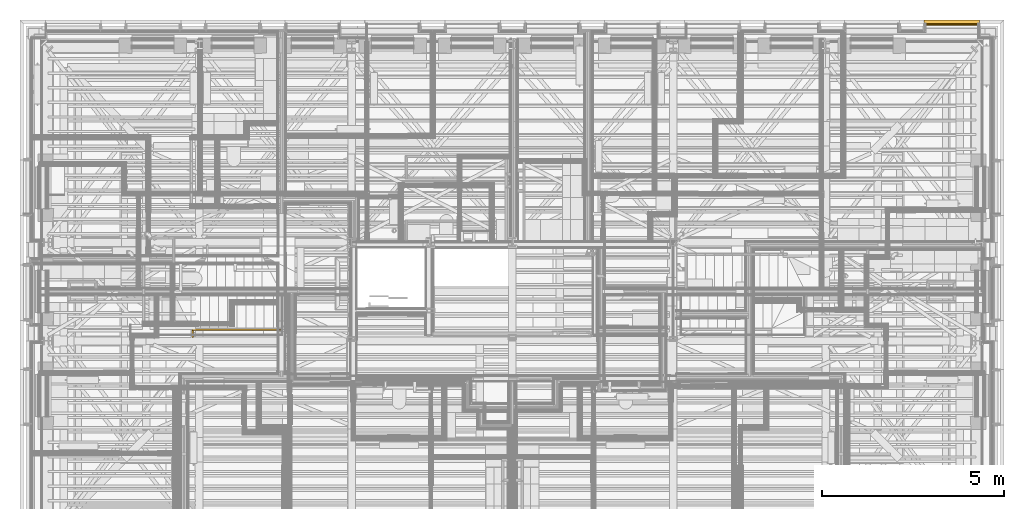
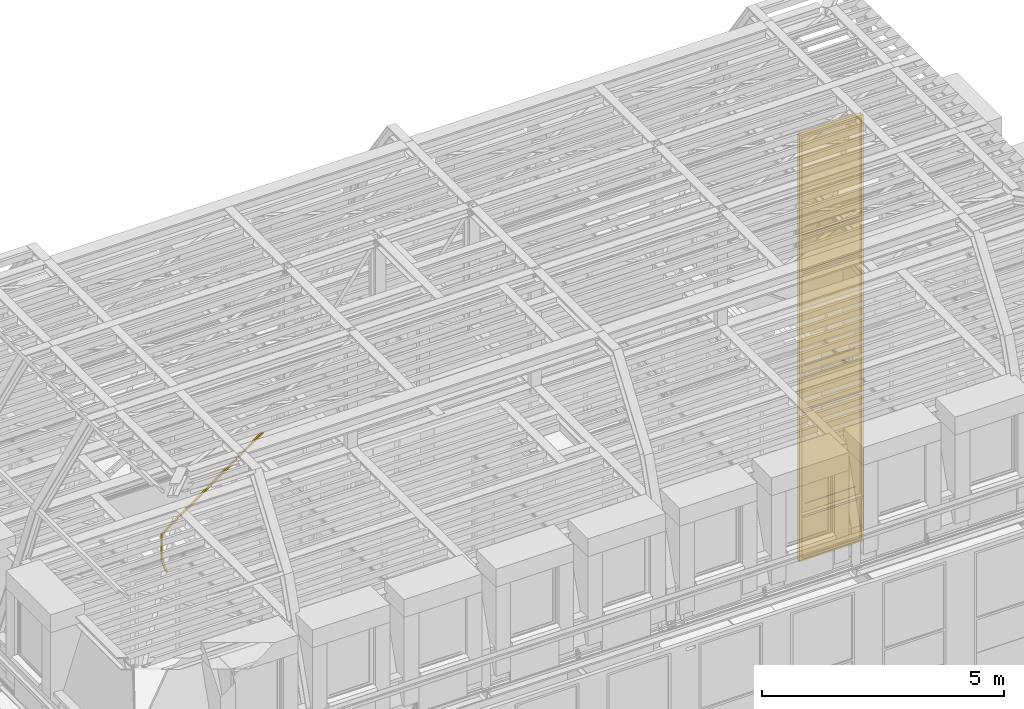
# One storey, part 156 of 183: 1 curtain wall, 1 railing.
"""IFC2X3 building model written with IfcOpenShell, lengths in metres."""

from ifc_helpers import new_model, entity, si_unit, converted_unit, derived_unit, money_unit, direction, frame, origin_with_axes, place, context, subcontext, project, spatial, faceted_brep, material, type_object, element, save


model = new_model("IFC2X3")

# Units and contexts
model_context = context("Model", 3, precision=1e-05, world=origin_with_axes(), true_north=direction((0.0, 1.0)))
body_context = subcontext(model_context, "Body", "Model", "MODEL_VIEW", scale=1.0)
ifc_project = project(units=[si_unit("LENGTHUNIT", "METRE"), si_unit("AREAUNIT", "SQUARE_METRE"), si_unit("VOLUMEUNIT", "CUBIC_METRE"), si_unit("ABSORBEDDOSEUNIT", "GRAY"), si_unit("AMOUNTOFSUBSTANCEUNIT", "MOLE"), si_unit("DOSEEQUIVALENTUNIT", "SIEVERT"), si_unit("ELECTRICCAPACITANCEUNIT", "FARAD"), si_unit("ELECTRICCHARGEUNIT", "COULOMB"), si_unit("ELECTRICCONDUCTANCEUNIT", "SIEMENS"), si_unit("ELECTRICCURRENTUNIT", "AMPERE"), si_unit("ELECTRICRESISTANCEUNIT", "OHM"), si_unit("ELECTRICVOLTAGEUNIT", "VOLT"), si_unit("ENERGYUNIT", "JOULE"), si_unit("FORCEUNIT", "NEWTON"), si_unit("FREQUENCYUNIT", "HERTZ"), si_unit("ILLUMINANCEUNIT", "LUX"), si_unit("INDUCTANCEUNIT", "HENRY"), si_unit("LUMINOUSFLUXUNIT", "LUMEN"), si_unit("LUMINOUSINTENSITYUNIT", "CANDELA"), si_unit("MAGNETICFLUXDENSITYUNIT", "TESLA"), si_unit("MAGNETICFLUXUNIT", "WEBER"), si_unit("MASSUNIT", "GRAM"), converted_unit("PLANEANGLEUNIT", "degree", entity("IfcReal", 0.0174532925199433), si_unit("PLANEANGLEUNIT", "RADIAN"), dimensions=[0, 0, 0, 0, 0, 0, 0]), si_unit("POWERUNIT", "WATT"), si_unit("PRESSUREUNIT", "PASCAL"), si_unit("RADIOACTIVITYUNIT", "BECQUEREL"), si_unit("SOLIDANGLEUNIT", "STERADIAN"), si_unit("THERMODYNAMICTEMPERATUREUNIT", "KELVIN"), si_unit("TIMEUNIT", "SECOND"), derived_unit("ACCELERATIONUNIT", [(si_unit("LENGTHUNIT", "METRE"), 1), (si_unit("TIMEUNIT", "SECOND"), -2)]), derived_unit("ANGULARVELOCITYUNIT", [(converted_unit("PLANEANGLEUNIT", "degree", entity("IfcReal", 0.0174532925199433), si_unit("PLANEANGLEUNIT", "RADIAN"), dimensions=[0, 0, 0, 0, 0, 0, 0]), 1), (si_unit("TIMEUNIT", "SECOND"), -1)]), derived_unit("CURVATUREUNIT", [(converted_unit("PLANEANGLEUNIT", "degree", entity("IfcReal", 0.0174532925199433), si_unit("PLANEANGLEUNIT", "RADIAN"), dimensions=[0, 0, 0, 0, 0, 0, 0]), 1), (si_unit("LENGTHUNIT", "METRE"), -1)]), derived_unit("DYNAMICVISCOSITYUNIT", [(si_unit("PRESSUREUNIT", "PASCAL"), 1), (si_unit("TIMEUNIT", "SECOND"), 1)]), derived_unit("HEATFLUXDENSITYUNIT", [(si_unit("POWERUNIT", "WATT"), 1), (si_unit("LENGTHUNIT", "METRE"), -2)]), derived_unit("HEATINGVALUEUNIT", [(si_unit("ENERGYUNIT", "JOULE"), 1), (si_unit("MASSUNIT", "GRAM"), -1)]), derived_unit("INTEGERCOUNTRATEUNIT", [(si_unit("TIMEUNIT", "SECOND"), -1)]), derived_unit("IONCONCENTRATIONUNIT", [(si_unit("MASSUNIT", "GRAM"), 1), (si_unit("VOLUMEUNIT", "CUBIC_METRE"), -1)]), derived_unit("ISOTHERMALMOISTURECAPACITYUNIT", [(si_unit("VOLUMEUNIT", "CUBIC_METRE"), 1), (si_unit("MASSUNIT", "GRAM"), -1)]), derived_unit("KINEMATICVISCOSITYUNIT", [(si_unit("AREAUNIT", "SQUARE_METRE"), 1), (si_unit("TIMEUNIT", "SECOND"), -1)]), derived_unit("LINEARFORCEUNIT", [(si_unit("FORCEUNIT", "NEWTON"), 1), (si_unit("LENGTHUNIT", "METRE"), -1)]), derived_unit("LINEARMOMENTUNIT", [(si_unit("FORCEUNIT", "NEWTON"), 1), (si_unit("LENGTHUNIT", "METRE"), -1)]), derived_unit("LINEARSTIFFNESSUNIT", [(si_unit("FORCEUNIT", "NEWTON"), 1), (si_unit("LENGTHUNIT", "METRE"), -1)]), derived_unit("LINEARVELOCITYUNIT", [(si_unit("LENGTHUNIT", "METRE"), 1), (si_unit("TIMEUNIT", "SECOND"), -1)]), derived_unit("LUMINOUSINTENSITYDISTRIBUTIONUNIT", [(si_unit("LUMINOUSINTENSITYUNIT", "CANDELA"), 1), (si_unit("LUMINOUSFLUXUNIT", "LUMEN"), -1)]), derived_unit("MASSDENSITYUNIT", [(si_unit("MASSUNIT", "GRAM"), 1), (si_unit("VOLUMEUNIT", "CUBIC_METRE"), -1)]), derived_unit("MASSFLOWRATEUNIT", [(si_unit("MASSUNIT", "GRAM"), 1), (si_unit("TIMEUNIT", "SECOND"), -1)]), derived_unit("MASSPERLENGTHUNIT", [(si_unit("MASSUNIT", "GRAM"), 1), (si_unit("LENGTHUNIT", "METRE"), -1)]), derived_unit("MODULUSOFELASTICITYUNIT", [(si_unit("FORCEUNIT", "NEWTON"), 1), (si_unit("AREAUNIT", "SQUARE_METRE"), -1)]), derived_unit("MODULUSOFLINEARSUBGRADEREACTIONUNIT", [(si_unit("FORCEUNIT", "NEWTON"), 1), (si_unit("LENGTHUNIT", "METRE"), -2)]), derived_unit("MODULUSOFROTATIONALSUBGRADEREACTIONUNIT", [(si_unit("FORCEUNIT", "NEWTON"), 1), (si_unit("LENGTHUNIT", "METRE"), 1)]), derived_unit("MODULUSOFSUBGRADEREACTIONUNIT", [(si_unit("FORCEUNIT", "NEWTON"), 1), (si_unit("VOLUMEUNIT", "CUBIC_METRE"), -1)]), derived_unit("MOISTUREDIFFUSIVITYUNIT", [(si_unit("VOLUMEUNIT", "CUBIC_METRE"), 1), (si_unit("TIMEUNIT", "SECOND"), -1)]), derived_unit("MOLECULARWEIGHTUNIT", [(si_unit("MASSUNIT", "GRAM"), 1), (si_unit("AMOUNTOFSUBSTANCEUNIT", "MOLE"), -1)]), derived_unit("PLANARFORCEUNIT", [(si_unit("FORCEUNIT", "NEWTON"), 1), (si_unit("LENGTHUNIT", "METRE"), -2)]), derived_unit("ROTATIONALFREQUENCYUNIT", [(si_unit("TIMEUNIT", "SECOND"), -1)]), derived_unit("ROTATIONALMASSUNIT", [(si_unit("MASSUNIT", "GRAM"), 1), (si_unit("LENGTHUNIT", "METRE"), 2)]), derived_unit("ROTATIONALSTIFFNESSUNIT", [(si_unit("FORCEUNIT", "NEWTON"), 1), (si_unit("LENGTHUNIT", "METRE"), 1), (converted_unit("PLANEANGLEUNIT", "degree", entity("IfcReal", 0.0174532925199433), si_unit("PLANEANGLEUNIT", "RADIAN"), dimensions=[0, 0, 0, 0, 0, 0, 0]), -1)]), derived_unit("SECTIONAREAINTEGRALUNIT", [(si_unit("LENGTHUNIT", "METRE"), 5)]), derived_unit("SECTIONMODULUSUNIT", [(si_unit("LENGTHUNIT", "METRE"), 3)]), derived_unit("SHEARMODULUSUNIT", [(si_unit("FORCEUNIT", "NEWTON"), 1), (si_unit("AREAUNIT", "SQUARE_METRE"), -1)]), derived_unit("SOUNDPOWERUNIT", [(si_unit("ENERGYUNIT", "JOULE"), 1), (si_unit("TIMEUNIT", "SECOND"), -1)]), derived_unit("SPECIFICHEATCAPACITYUNIT", [(si_unit("FORCEUNIT", "NEWTON"), 1), (si_unit("MASSUNIT", "GRAM"), -1), (si_unit("THERMODYNAMICTEMPERATUREUNIT", "KELVIN"), -1)]), derived_unit("TEMPERATUREGRADIENTUNIT", [(si_unit("THERMODYNAMICTEMPERATUREUNIT", "KELVIN"), 1), (si_unit("LENGTHUNIT", "METRE"), -1)]), derived_unit("THERMALADMITTANCEUNIT", [(si_unit("POWERUNIT", "WATT"), 1), (si_unit("AREAUNIT", "SQUARE_METRE"), -1), (si_unit("THERMODYNAMICTEMPERATUREUNIT", "KELVIN"), -1)]), derived_unit("THERMALCONDUCTANCEUNIT", [(si_unit("POWERUNIT", "WATT"), 1), (si_unit("LENGTHUNIT", "METRE"), -1), (si_unit("THERMODYNAMICTEMPERATUREUNIT", "KELVIN"), -1)]), derived_unit("THERMALEXPANSIONCOEFFICIENTUNIT", [(si_unit("THERMODYNAMICTEMPERATUREUNIT", "KELVIN"), -1)]), derived_unit("THERMALRESISTANCEUNIT", [(si_unit("AREAUNIT", "SQUARE_METRE"), 1), (si_unit("POWERUNIT", "WATT"), -1)]), derived_unit("THERMALTRANSMITTANCEUNIT", [(si_unit("POWERUNIT", "WATT"), 1), (si_unit("AREAUNIT", "SQUARE_METRE"), -1), (si_unit("THERMODYNAMICTEMPERATUREUNIT", "KELVIN"), -1)]), derived_unit("TORQUEUNIT", [(si_unit("FORCEUNIT", "NEWTON"), 1), (si_unit("LENGTHUNIT", "METRE"), 1)]), derived_unit("VAPORPERMEABILITYUNIT", [(si_unit("MASSUNIT", "GRAM"), 1), (si_unit("TIMEUNIT", "SECOND"), -1)]), derived_unit("VOLUMETRICFLOWRATEUNIT", [(si_unit("VOLUMEUNIT", "CUBIC_METRE"), 1), (si_unit("TIMEUNIT", "SECOND"), -1)]), derived_unit("WARPINGCONSTANTUNIT", [(si_unit("LENGTHUNIT", "METRE"), 6)]), derived_unit("WARPINGMOMENTUNIT", [(si_unit("FORCEUNIT", "NEWTON"), 1), (si_unit("LENGTHUNIT", "METRE"), 2)]), money_unit("GBP")], contexts=[model_context])

# Site, building, storey
site_placement = place(None, origin_with_axes())
site = spatial("IfcSite", under=ifc_project, at=site_placement, Name="Site", CompositionType="ELEMENT")
building_placement = place(site_placement, origin_with_axes())
building = spatial("IfcBuilding", under=site, at=building_placement, Name="Building01", CompositionType="ELEMENT")
storey_placement = place(building_placement, frame((0.0, 0.0, 5.15), z_axis=(0.0, 0.0, 1.0), x_axis=(1.0, 0.0, 0.0)))
storey = spatial("IfcBuildingStorey", under=building, at=storey_placement, Name="1F", CompositionType="ELEMENT", Elevation=5.15)

# Curtain wall
ifc_material_1 = material(Name="A-CurtainWall_Frame")
curtain_wall_type = type_object("IfcCurtainWallType", Name="Pattern - Maximum Spacing", PredefinedType="NOTDEFINED")
curtain_wall_placement = place(storey_placement, frame((0.0, 0.0, -5.15), z_axis=(0.0, 0.0, 1.0), x_axis=(1.0, 0.0, 0.0)))
element("IfcCurtainWall", 1, at=curtain_wall_placement, inside=storey, type_object=curtain_wall_type, material=ifc_material_1, Name="01", ObjectType="Pattern - Maximum Spacing", context=body_context, shape_type="Brep", body=[
    faceted_brep([(26.28, 14.85, 5.118945), (26.28, 14.87, 5.118945), (24.82, 14.87, 5.118945), (24.82, 14.85, 5.118945), (26.28, 14.85, 4.0), (26.28, 14.87, 4.0), (24.82, 14.85, 4.0), (24.82, 14.87, 4.0)], [[[0, 1, 2, 3]], [[4, 5, 1, 0]], [[6, 7, 5, 4]], [[3, 2, 7, 6]], [[1, 5, 7, 2]], [[3, 6, 4, 0]]]),
    faceted_brep([(24.79, 14.9, 3.97), (24.84, 14.9, 3.97), (24.84, 14.865, 3.97), (24.82, 14.865, 3.97), (24.82, 14.855, 3.97), (24.84, 14.855, 3.97), (24.84, 14.8, 3.97), (24.79, 14.8, 3.97), (24.79, 14.8, 5.123945), (24.79, 14.9, 5.123945), (24.84, 14.9, 5.123945), (24.84, 14.865, 5.123945), (24.82, 14.865, 5.123945), (24.82, 14.855, 5.123945), (24.84, 14.855, 5.123945), (24.84, 14.8, 5.123945)], [[[0, 1, 2, 3, 4, 5, 6, 7]], [[7, 8, 9, 0]], [[0, 9, 10, 1]], [[1, 10, 11, 2]], [[2, 11, 12, 3]], [[3, 12, 13, 4]], [[4, 13, 14, 5]], [[5, 14, 15, 6]], [[6, 15, 8, 7]]]),
    faceted_brep([(26.26, 14.9, 4.02), (26.26, 14.865, 4.02), (26.26, 14.865, 4.0), (26.26, 14.855, 4.0), (26.26, 14.855, 4.02), (26.26, 14.8, 4.02), (26.26, 14.8, 3.97), (26.26, 14.9, 3.97), (24.84, 14.9, 3.97), (24.84, 14.9, 4.02), (24.84, 14.865, 4.02), (24.84, 14.865, 4.0), (24.84, 14.855, 4.0), (24.84, 14.855, 4.02), (24.84, 14.8, 4.02), (24.84, 14.8, 3.97)], [[[0, 1, 2, 3, 4, 5, 6, 7]], [[7, 8, 9, 0]], [[0, 9, 10, 1]], [[1, 10, 11, 2]], [[2, 11, 12, 3]], [[3, 12, 13, 4]], [[4, 13, 14, 5]], [[5, 14, 15, 6]], [[6, 15, 8, 7]], [[8, 15, 14, 13, 12, 11, 10, 9]]]),
    faceted_brep([(26.31, 14.9, 3.97), (26.31, 14.9, 5.123945), (26.31, 14.8, 5.123945), (26.31, 14.8, 3.97), (26.26, 14.9, 3.97), (26.26, 14.9, 5.123945), (26.26, 14.865, 3.97), (26.26, 14.865, 5.123945), (26.28, 14.865, 3.97), (26.28, 14.865, 5.123945), (26.28, 14.855, 3.97), (26.28, 14.855, 5.123945), (26.26, 14.855, 3.97), (26.26, 14.855, 5.123945), (26.26, 14.8, 3.97), (26.26, 14.8, 5.123945)], [[[0, 1, 2, 3]], [[4, 5, 1, 0]], [[6, 7, 5, 4]], [[8, 9, 7, 6]], [[10, 11, 9, 8]], [[12, 13, 11, 10]], [[14, 15, 13, 12]], [[3, 2, 15, 14]], [[14, 12, 10, 8, 6, 4, 0, 3]]]),
    faceted_brep([(24.84, 14.85, 5.128945), (24.84, 14.87, 5.128945), (24.84, 14.87, 5.148945), (24.84, 14.9, 5.148945), (24.84, 14.9, 5.098945), (24.84, 14.87, 5.098945), (24.84, 14.87, 5.118945), (24.84, 14.85, 5.118945), (24.84, 14.85, 5.098945), (24.84, 14.75, 5.098945), (24.84, 14.75, 5.148945), (24.84, 14.85, 5.148945), (26.26, 14.85, 5.148945), (26.26, 14.85, 5.128945), (26.26, 14.87, 5.128945), (26.26, 14.87, 5.148945), (26.26, 14.9, 5.148945), (26.26, 14.9, 5.098945), (26.26, 14.87, 5.098945), (26.26, 14.85, 5.118945), (26.26, 14.85, 5.098945), (26.26, 14.87, 5.118945), (26.26, 14.75, 5.148945), (26.26, 14.75, 5.098945)], [[[0, 1, 2, 3, 4, 5, 6, 7, 8, 9, 10, 11]], [[11, 12, 13, 0]], [[0, 13, 14, 1]], [[1, 14, 15, 2]], [[2, 15, 16, 3]], [[3, 16, 17, 4]], [[4, 17, 18, 5]], [[7, 19, 20, 8]], [[6, 21, 19, 7]], [[5, 18, 21, 6]], [[10, 22, 12, 11]], [[9, 23, 22, 10]], [[8, 20, 23, 9]], [[20, 19, 21, 18, 17, 16, 15, 14, 13, 12, 22, 23]]]),
    faceted_brep([(26.28, 14.85, 8.615677), (26.28, 14.87, 8.615677), (24.82, 14.87, 8.615677), (24.82, 14.85, 8.615677), (26.28, 14.85, 7.726517), (26.28, 14.87, 7.726517), (24.82, 14.85, 7.726517), (24.82, 14.87, 7.726517)], [[[0, 1, 2, 3]], [[4, 5, 1, 0]], [[6, 7, 5, 4]], [[3, 2, 7, 6]], [[1, 5, 7, 2]], [[3, 6, 4, 0]]]),
    faceted_brep([(24.84, 14.8, 8.620677), (24.84, 14.8, 7.721517), (24.84, 14.855, 7.721517), (24.84, 14.855, 8.620677), (24.79, 14.8, 8.620677), (24.79, 14.8, 7.721517), (24.79, 14.9, 8.620677), (24.79, 14.9, 7.721517), (24.84, 14.9, 8.620677), (24.84, 14.9, 7.721517), (24.84, 14.865, 8.620677), (24.84, 14.865, 7.721517), (24.82, 14.865, 8.620677), (24.82, 14.865, 7.721517), (24.82, 14.855, 8.620677), (24.82, 14.855, 7.721517)], [[[0, 1, 2, 3]], [[4, 5, 1, 0]], [[6, 7, 5, 4]], [[8, 9, 7, 6]], [[10, 11, 9, 8]], [[12, 13, 11, 10]], [[14, 15, 13, 12]], [[3, 2, 15, 14]]]),
    faceted_brep([(26.26, 14.865, 7.726517), (26.26, 14.855, 7.726517), (26.26, 14.855, 7.746517), (26.26, 14.8, 7.746517), (26.26, 14.8, 7.696517), (26.26, 14.855, 7.696517), (26.26, 14.855, 7.716517), (26.26, 14.865, 7.716517), (26.26, 14.865, 7.696517), (26.26, 14.9, 7.696517), (26.26, 14.9, 7.746517), (26.26, 14.865, 7.746517), (24.84, 14.865, 7.746517), (24.84, 14.865, 7.726517), (24.84, 14.855, 7.726517), (24.84, 14.855, 7.746517), (24.84, 14.8, 7.746517), (24.84, 14.8, 7.696517), (24.84, 14.855, 7.696517), (24.84, 14.865, 7.716517), (24.84, 14.865, 7.696517), (24.84, 14.855, 7.716517), (24.84, 14.9, 7.746517), (24.84, 14.9, 7.696517)], [[[0, 1, 2, 3, 4, 5, 6, 7, 8, 9, 10, 11]], [[11, 12, 13, 0]], [[0, 13, 14, 1]], [[1, 14, 15, 2]], [[2, 15, 16, 3]], [[3, 16, 17, 4]], [[4, 17, 18, 5]], [[7, 19, 20, 8]], [[6, 21, 19, 7]], [[5, 18, 21, 6]], [[10, 22, 12, 11]], [[9, 23, 22, 10]], [[8, 20, 23, 9]], [[20, 19, 21, 18, 17, 16, 15, 14, 13, 12, 22, 23]]]),
    faceted_brep([(26.31, 14.9, 7.721517), (26.31, 14.9, 8.620677), (26.31, 14.8, 8.620677), (26.31, 14.8, 7.721517), (26.26, 14.9, 7.721517), (26.26, 14.9, 8.620677), (26.26, 14.865, 7.721517), (26.26, 14.865, 8.620677), (26.28, 14.865, 7.721517), (26.28, 14.865, 8.620677), (26.28, 14.855, 7.721517), (26.28, 14.855, 8.620677), (26.26, 14.855, 7.721517), (26.26, 14.855, 8.620677), (26.26, 14.8, 7.721517), (26.26, 14.8, 8.620677)], [[[0, 1, 2, 3]], [[4, 5, 1, 0]], [[6, 7, 5, 4]], [[8, 9, 7, 6]], [[10, 11, 9, 8]], [[12, 13, 11, 10]], [[14, 15, 13, 12]], [[3, 2, 15, 14]]]),
    faceted_brep([(24.84, 14.8375, 8.625677), (24.84, 14.8475, 8.625677), (24.84, 14.8475, 8.645677), (24.84, 14.8825, 8.645677), (24.84, 14.8825, 8.595677), (24.84, 14.8475, 8.595677), (24.84, 14.8475, 8.615677), (24.84, 14.8375, 8.615677), (24.84, 14.8375, 8.595677), (24.84, 14.7825, 8.595677), (24.84, 14.7825, 8.645677), (24.84, 14.8375, 8.645677), (26.26, 14.8375, 8.645677), (26.26, 14.8375, 8.625677), (26.26, 14.8475, 8.625677), (26.26, 14.8475, 8.645677), (26.26, 14.8825, 8.645677), (26.26, 14.8825, 8.595677), (26.26, 14.8475, 8.595677), (26.26, 14.8375, 8.615677), (26.26, 14.8375, 8.595677), (26.26, 14.8475, 8.615677), (26.26, 14.7825, 8.645677), (26.26, 14.7825, 8.595677)], [[[0, 1, 2, 3, 4, 5, 6, 7, 8, 9, 10, 11]], [[11, 12, 13, 0]], [[0, 13, 14, 1]], [[1, 14, 15, 2]], [[2, 15, 16, 3]], [[3, 16, 17, 4]], [[4, 17, 18, 5]], [[7, 19, 20, 8]], [[6, 21, 19, 7]], [[5, 18, 21, 6]], [[10, 22, 12, 11]], [[9, 23, 22, 10]], [[8, 20, 23, 9]], [[20, 19, 21, 18, 17, 16, 15, 14, 13, 12, 22, 23]]]),
    faceted_brep([(26.28, 14.85, 12.112409), (26.28, 14.87, 12.112409), (24.82, 14.87, 12.112409), (24.82, 14.85, 12.112409), (26.28, 14.85, 11.223249), (26.28, 14.87, 11.223249), (24.82, 14.85, 11.223249), (24.82, 14.87, 11.223249)], [[[0, 1, 2, 3]], [[4, 5, 1, 0]], [[6, 7, 5, 4]], [[3, 2, 7, 6]], [[1, 5, 7, 2]], [[3, 6, 4, 0]]]),
    faceted_brep([(24.84, 14.8, 12.117409), (24.84, 14.8, 11.218249), (24.84, 14.855, 11.218249), (24.84, 14.855, 12.117409), (24.79, 14.8, 12.117409), (24.79, 14.8, 11.218249), (24.79, 14.9, 12.117409), (24.79, 14.9, 11.218249), (24.84, 14.9, 12.117409), (24.84, 14.9, 11.218249), (24.84, 14.865, 12.117409), (24.84, 14.865, 11.218249), (24.82, 14.865, 12.117409), (24.82, 14.865, 11.218249), (24.82, 14.855, 12.117409), (24.82, 14.855, 11.218249)], [[[0, 1, 2, 3]], [[4, 5, 1, 0]], [[6, 7, 5, 4]], [[8, 9, 7, 6]], [[10, 11, 9, 8]], [[12, 13, 11, 10]], [[14, 15, 13, 12]], [[3, 2, 15, 14]]]),
    faceted_brep([(26.26, 14.865, 11.223249), (26.26, 14.855, 11.223249), (26.26, 14.855, 11.243249), (26.26, 14.8, 11.243249), (26.26, 14.8, 11.193249), (26.26, 14.855, 11.193249), (26.26, 14.855, 11.213249), (26.26, 14.865, 11.213249), (26.26, 14.865, 11.193249), (26.26, 14.9, 11.193249), (26.26, 14.9, 11.243249), (26.26, 14.865, 11.243249), (24.84, 14.865, 11.243249), (24.84, 14.865, 11.223249), (24.84, 14.855, 11.223249), (24.84, 14.855, 11.243249), (24.84, 14.8, 11.243249), (24.84, 14.8, 11.193249), (24.84, 14.855, 11.193249), (24.84, 14.865, 11.213249), (24.84, 14.865, 11.193249), (24.84, 14.855, 11.213249), (24.84, 14.9, 11.243249), (24.84, 14.9, 11.193249)], [[[0, 1, 2, 3, 4, 5, 6, 7, 8, 9, 10, 11]], [[11, 12, 13, 0]], [[0, 13, 14, 1]], [[1, 14, 15, 2]], [[2, 15, 16, 3]], [[3, 16, 17, 4]], [[4, 17, 18, 5]], [[7, 19, 20, 8]], [[6, 21, 19, 7]], [[5, 18, 21, 6]], [[10, 22, 12, 11]], [[9, 23, 22, 10]], [[8, 20, 23, 9]], [[20, 19, 21, 18, 17, 16, 15, 14, 13, 12, 22, 23]]]),
    faceted_brep([(26.31, 14.9, 11.218249), (26.31, 14.9, 12.117409), (26.31, 14.8, 12.117409), (26.31, 14.8, 11.218249), (26.26, 14.9, 11.218249), (26.26, 14.9, 12.117409), (26.26, 14.865, 11.218249), (26.26, 14.865, 12.117409), (26.28, 14.865, 11.218249), (26.28, 14.865, 12.117409), (26.28, 14.855, 11.218249), (26.28, 14.855, 12.117409), (26.26, 14.855, 11.218249), (26.26, 14.855, 12.117409), (26.26, 14.8, 11.218249), (26.26, 14.8, 12.117409)], [[[0, 1, 2, 3]], [[4, 5, 1, 0]], [[6, 7, 5, 4]], [[8, 9, 7, 6]], [[10, 11, 9, 8]], [[12, 13, 11, 10]], [[14, 15, 13, 12]], [[3, 2, 15, 14]]]),
    faceted_brep([(24.84, 14.8375, 12.122409), (24.84, 14.8475, 12.122409), (24.84, 14.8475, 12.142409), (24.84, 14.8825, 12.142409), (24.84, 14.8825, 12.092409), (24.84, 14.8475, 12.092409), (24.84, 14.8475, 12.112409), (24.84, 14.8375, 12.112409), (24.84, 14.8375, 12.092409), (24.84, 14.7825, 12.092409), (24.84, 14.7825, 12.142409), (24.84, 14.8375, 12.142409), (26.26, 14.8375, 12.142409), (26.26, 14.8375, 12.122409), (26.26, 14.8475, 12.122409), (26.26, 14.8475, 12.142409), (26.26, 14.8825, 12.142409), (26.26, 14.8825, 12.092409), (26.26, 14.8475, 12.092409), (26.26, 14.8375, 12.112409), (26.26, 14.8375, 12.092409), (26.26, 14.8475, 12.112409), (26.26, 14.7825, 12.142409), (26.26, 14.7825, 12.092409)], [[[0, 1, 2, 3, 4, 5, 6, 7, 8, 9, 10, 11]], [[11, 12, 13, 0]], [[0, 13, 14, 1]], [[1, 14, 15, 2]], [[2, 15, 16, 3]], [[3, 16, 17, 4]], [[4, 17, 18, 5]], [[7, 19, 20, 8]], [[6, 21, 19, 7]], [[5, 18, 21, 6]], [[10, 22, 12, 11]], [[9, 23, 22, 10]], [[8, 20, 23, 9]], [[20, 19, 21, 18, 17, 16, 15, 14, 13, 12, 22, 23]]]),
    faceted_brep([(24.94, 14.89, 7.596517), (24.94, 14.87, 7.596517), (26.16, 14.87, 7.596517), (26.16, 14.89, 7.596517), (26.16, 14.87, 5.348945), (26.16, 14.89, 5.348945), (24.94, 14.87, 5.348945), (24.94, 14.89, 5.348945)], [[[0, 1, 2, 3]], [[3, 2, 4, 5]], [[5, 4, 6, 7]], [[7, 6, 1, 0]], [[1, 6, 4, 2]], [[3, 5, 7, 0]]]),
    faceted_brep([(24.84, 14.86, 7.696517), (24.84, 14.86, 5.148945), (26.26, 14.86, 5.148945), (26.26, 14.86, 7.696517), (26.16, 14.86, 5.348945), (24.94, 14.86, 5.348945), (24.94, 14.86, 7.596517), (26.16, 14.86, 7.596517), (26.26, 14.9, 7.696517), (26.26, 14.9, 5.148945), (24.84, 14.9, 5.148945), (24.84, 14.9, 7.696517), (24.94, 14.9, 7.596517), (24.94, 14.9, 5.348945), (26.16, 14.9, 5.348945), (26.16, 14.9, 7.596517)], [[[0, 1, 2, 3], [4, 5, 6, 7]], [[8, 9, 10, 11], [12, 13, 14, 15]], [[11, 0, 3, 8]], [[8, 3, 2, 9]], [[9, 2, 1, 10]], [[10, 1, 0, 11]], [[7, 6, 12, 15]], [[4, 7, 15, 14]], [[5, 4, 14, 13]], [[6, 5, 13, 12]]]),
    faceted_brep([(26.31, 14.9, 5.123945), (26.31, 14.9, 7.721517), (26.31, 14.8, 7.721517), (26.31, 14.8, 5.123945), (26.26, 14.9, 5.123945), (26.26, 14.9, 7.721517), (26.26, 14.865, 5.123945), (26.26, 14.865, 7.721517), (26.28, 14.865, 5.123945), (26.28, 14.865, 7.721517), (26.28, 14.855, 5.123945), (26.28, 14.855, 7.721517), (26.26, 14.855, 5.123945), (26.26, 14.855, 7.721517), (26.26, 14.8, 5.123945), (26.26, 14.8, 7.721517)], [[[0, 1, 2, 3]], [[4, 5, 1, 0]], [[6, 7, 5, 4]], [[8, 9, 7, 6]], [[10, 11, 9, 8]], [[12, 13, 11, 10]], [[14, 15, 13, 12]], [[3, 2, 15, 14]]]),
    faceted_brep([(24.84, 14.8, 7.721517), (24.84, 14.8, 5.123945), (24.84, 14.855, 5.123945), (24.84, 14.855, 7.721517), (24.79, 14.8, 7.721517), (24.79, 14.8, 5.123945), (24.79, 14.9, 7.721517), (24.79, 14.9, 5.123945), (24.84, 14.9, 7.721517), (24.84, 14.9, 5.123945), (24.84, 14.865, 7.721517), (24.84, 14.865, 5.123945), (24.82, 14.865, 7.721517), (24.82, 14.865, 5.123945), (24.82, 14.855, 7.721517), (24.82, 14.855, 5.123945)], [[[0, 1, 2, 3]], [[4, 5, 1, 0]], [[6, 7, 5, 4]], [[8, 9, 7, 6]], [[10, 11, 9, 8]], [[12, 13, 11, 10]], [[14, 15, 13, 12]], [[3, 2, 15, 14]]]),
    faceted_brep([(24.94, 14.89, 11.093249), (24.94, 14.87, 11.093249), (26.16, 14.87, 11.093249), (26.16, 14.89, 11.093249), (26.16, 14.87, 8.845677), (26.16, 14.89, 8.845677), (24.94, 14.87, 8.845677), (24.94, 14.89, 8.845677)], [[[0, 1, 2, 3]], [[3, 2, 4, 5]], [[5, 4, 6, 7]], [[7, 6, 1, 0]], [[1, 6, 4, 2]], [[3, 5, 7, 0]]]),
    faceted_brep([(24.84, 14.86, 11.193249), (24.84, 14.86, 8.645677), (26.26, 14.86, 8.645677), (26.26, 14.86, 11.193249), (26.16, 14.86, 8.845677), (24.94, 14.86, 8.845677), (24.94, 14.86, 11.093249), (26.16, 14.86, 11.093249), (26.26, 14.9, 11.193249), (26.26, 14.9, 8.645677), (24.84, 14.9, 8.645677), (24.84, 14.9, 11.193249), (24.94, 14.9, 11.093249), (24.94, 14.9, 8.845677), (26.16, 14.9, 8.845677), (26.16, 14.9, 11.093249)], [[[0, 1, 2, 3], [4, 5, 6, 7]], [[8, 9, 10, 11], [12, 13, 14, 15]], [[11, 0, 3, 8]], [[8, 3, 2, 9]], [[9, 2, 1, 10]], [[10, 1, 0, 11]], [[7, 6, 12, 15]], [[4, 7, 15, 14]], [[5, 4, 14, 13]], [[6, 5, 13, 12]]]),
    faceted_brep([(26.31, 14.9, 8.620677), (26.31, 14.9, 11.218249), (26.31, 14.8, 11.218249), (26.31, 14.8, 8.620677), (26.26, 14.9, 8.620677), (26.26, 14.9, 11.218249), (26.26, 14.865, 8.620677), (26.26, 14.865, 11.218249), (26.28, 14.865, 8.620677), (26.28, 14.865, 11.218249), (26.28, 14.855, 8.620677), (26.28, 14.855, 11.218249), (26.26, 14.855, 8.620677), (26.26, 14.855, 11.218249), (26.26, 14.8, 8.620677), (26.26, 14.8, 11.218249)], [[[0, 1, 2, 3]], [[4, 5, 1, 0]], [[6, 7, 5, 4]], [[8, 9, 7, 6]], [[10, 11, 9, 8]], [[12, 13, 11, 10]], [[14, 15, 13, 12]], [[3, 2, 15, 14]]]),
    faceted_brep([(24.84, 14.8, 11.218249), (24.84, 14.8, 8.620677), (24.84, 14.855, 8.620677), (24.84, 14.855, 11.218249), (24.79, 14.8, 11.218249), (24.79, 14.8, 8.620677), (24.79, 14.9, 11.218249), (24.79, 14.9, 8.620677), (24.84, 14.9, 11.218249), (24.84, 14.9, 8.620677), (24.84, 14.865, 11.218249), (24.84, 14.865, 8.620677), (24.82, 14.865, 11.218249), (24.82, 14.865, 8.620677), (24.82, 14.855, 11.218249), (24.82, 14.855, 8.620677)], [[[0, 1, 2, 3]], [[4, 5, 1, 0]], [[6, 7, 5, 4]], [[8, 9, 7, 6]], [[10, 11, 9, 8]], [[12, 13, 11, 10]], [[14, 15, 13, 12]], [[3, 2, 15, 14]]]),
    faceted_brep([(24.82, 14.865, 14.72), (24.84, 14.865, 14.72), (24.84, 14.9, 14.72), (24.79, 14.9, 14.72), (24.79, 14.8, 14.72), (24.84, 14.8, 14.72), (24.84, 14.855, 14.72), (24.82, 14.855, 14.72), (24.82, 14.855, 12.117409), (24.82, 14.865, 12.117409), (24.84, 14.865, 12.117409), (24.84, 14.9, 12.117409), (24.79, 14.9, 12.117409), (24.79, 14.8, 12.117409), (24.84, 14.8, 12.117409), (24.84, 14.855, 12.117409)], [[[0, 1, 2, 3, 4, 5, 6, 7]], [[7, 8, 9, 0]], [[0, 9, 10, 1]], [[1, 10, 11, 2]], [[2, 11, 12, 3]], [[3, 12, 13, 4]], [[4, 13, 14, 5]], [[5, 14, 15, 6]], [[6, 15, 8, 7]]]),
    faceted_brep([(26.26, 14.8, 14.67), (26.26, 14.855, 14.67), (26.26, 14.855, 14.69), (26.26, 14.865, 14.69), (26.26, 14.865, 14.67), (26.26, 14.9, 14.67), (26.26, 14.9, 14.72), (26.26, 14.8, 14.72), (24.84, 14.8, 14.72), (24.84, 14.8, 14.67), (24.84, 14.855, 14.67), (24.84, 14.855, 14.69), (24.84, 14.865, 14.69), (24.84, 14.865, 14.67), (24.84, 14.9, 14.67), (24.84, 14.9, 14.72)], [[[0, 1, 2, 3, 4, 5, 6, 7]], [[7, 8, 9, 0]], [[0, 9, 10, 1]], [[1, 10, 11, 2]], [[2, 11, 12, 3]], [[3, 12, 13, 4]], [[4, 13, 14, 5]], [[5, 14, 15, 6]], [[6, 15, 8, 7]], [[8, 15, 14, 13, 12, 11, 10, 9]]]),
    faceted_brep([(26.28, 14.865, 14.72), (26.28, 14.865, 12.117409), (26.28, 14.855, 12.117409), (26.28, 14.855, 14.72), (26.26, 14.865, 14.72), (26.26, 14.865, 12.117409), (26.26, 14.9, 14.72), (26.26, 14.9, 12.117409), (26.31, 14.9, 14.72), (26.31, 14.9, 12.117409), (26.31, 14.8, 14.72), (26.31, 14.8, 12.117409), (26.26, 14.8, 14.72), (26.26, 14.8, 12.117409), (26.26, 14.855, 14.72), (26.26, 14.855, 12.117409)], [[[0, 1, 2, 3]], [[4, 5, 1, 0]], [[6, 7, 5, 4]], [[8, 9, 7, 6]], [[10, 11, 9, 8]], [[12, 13, 11, 10]], [[14, 15, 13, 12]], [[3, 2, 15, 14]], [[14, 12, 10, 8, 6, 4, 0, 3]]]),
    faceted_brep([(24.94, 14.89, 14.57), (24.94, 14.87, 14.57), (26.16, 14.87, 14.57), (26.16, 14.89, 14.57), (26.16, 14.87, 12.342409), (26.16, 14.89, 12.342409), (24.94, 14.87, 12.342409), (24.94, 14.89, 12.342409)], [[[0, 1, 2, 3]], [[3, 2, 4, 5]], [[5, 4, 6, 7]], [[7, 6, 1, 0]], [[1, 6, 4, 2]], [[3, 5, 7, 0]]]),
    faceted_brep([(24.84, 14.86, 14.67), (24.84, 14.86, 12.142409), (26.26, 14.86, 12.142409), (26.26, 14.86, 14.67), (26.16, 14.86, 12.342409), (24.94, 14.86, 12.342409), (24.94, 14.86, 14.57), (26.16, 14.86, 14.57), (26.26, 14.9, 14.67), (26.26, 14.9, 12.142409), (24.84, 14.9, 12.142409), (24.84, 14.9, 14.67), (24.94, 14.9, 14.57), (24.94, 14.9, 12.342409), (26.16, 14.9, 12.342409), (26.16, 14.9, 14.57)], [[[0, 1, 2, 3], [4, 5, 6, 7]], [[8, 9, 10, 11], [12, 13, 14, 15]], [[11, 0, 3, 8]], [[8, 3, 2, 9]], [[9, 2, 1, 10]], [[10, 1, 0, 11]], [[7, 6, 12, 15]], [[4, 7, 15, 14]], [[5, 4, 14, 13]], [[6, 5, 13, 12]]]),
])

# Railing
ifc_material_2 = material(Name="A_BSUK_Steel_Miscellaneous")
railing_type = type_object("IfcRailingType", Name="S-Handrail-900mm", PredefinedType="NOTDEFINED")
railing_placement = place(storey_placement, frame((7.126587, 6.511889, 12.475267), z_axis=(0.0, 0.0, 1.0), x_axis=(1.0, 0.0, 0.0)))
element("IfcRailing", 2, at=railing_placement, inside=storey, type_object=railing_type, material=ifc_material_2, Name="S-Handrail-900mm", ObjectType="S-Handrail-900mm", PredefinedType="HANDRAIL", context=body_context, shape_type="Brep", body=[
    faceted_brep([(0.023372, -0.08, 0.867539), (0.0, -0.08, 0.9), (0.0, -0.12, 0.9), (0.023372, -0.12, 0.867539), (0.021035, -0.084, 0.870785), (0.021035, -0.116, 0.870785), (0.002337, -0.116, 0.896754), (0.002337, -0.084, 0.896754), (-2.373426, -0.12, -0.858156), (-2.373426, -0.08, -0.858156), (-2.413426, -0.08, -0.837667), (-2.413426, -0.12, -0.837667), (-2.377426, -0.116, -0.856107), (-2.377426, -0.084, -0.856107), (-2.409426, -0.084, -0.839716), (-2.409426, -0.116, -0.839716)], [[[0, 1, 2, 3], [4, 5, 6, 7]], [[8, 9, 0, 3]], [[9, 10, 1, 0]], [[10, 11, 2, 1]], [[11, 8, 3, 2]], [[12, 5, 4, 13]], [[13, 4, 7, 14]], [[14, 7, 6, 15]], [[15, 6, 5, 12]], [[8, 11, 10, 9], [12, 13, 14, 15]]]),
    faceted_brep([(-2.413426, -0.08, -0.837667), (-2.373426, -0.08, -0.858156), (-2.373426, -0.08, -1.542156), (-2.413426, -0.08, -1.542156), (-2.413426, -0.12, -1.521667), (-2.413426, -0.12, -0.837667), (-2.373426, -0.12, -1.521667), (-2.373426, -0.12, -0.858156), (-2.377426, -0.084, -1.540107), (-2.377426, -0.084, -0.856107), (-2.409426, -0.084, -0.839716), (-2.409426, -0.084, -1.540107), (-2.409426, -0.116, -0.839716), (-2.409426, -0.116, -1.523716), (-2.377426, -0.116, -0.856107), (-2.377426, -0.116, -1.523716)], [[[0, 1, 2, 3]], [[3, 4, 5, 0]], [[4, 6, 7, 5]], [[6, 2, 1, 7]], [[8, 9, 10, 11]], [[11, 10, 12, 13]], [[13, 12, 14, 15]], [[15, 14, 9, 8]], [[0, 5, 7, 1], [10, 9, 14, 12]], [[2, 6, 4, 3], [8, 11, 13, 15]]]),
    faceted_brep([(-2.373426, -0.288578, -1.692332), (-2.373426, -0.31195, -1.659871), (-2.413426, -0.31195, -1.659871), (-2.413426, -0.288578, -1.692332), (-2.409426, -0.290915, -1.689086), (-2.409426, -0.309613, -1.663117), (-2.377426, -0.309613, -1.663117), (-2.377426, -0.290915, -1.689086), (-2.413426, -0.08, -1.542156), (-2.373426, -0.08, -1.542156), (-2.413426, -0.12, -1.521667), (-2.373426, -0.12, -1.521667), (-2.409426, -0.084, -1.540107), (-2.377426, -0.084, -1.540107), (-2.409426, -0.116, -1.523716), (-2.377426, -0.116, -1.523716)], [[[0, 1, 2, 3], [4, 5, 6, 7]], [[8, 9, 0, 3]], [[10, 8, 3, 2]], [[11, 10, 2, 1]], [[9, 11, 1, 0]], [[12, 4, 7, 13]], [[14, 5, 4, 12]], [[15, 6, 5, 14]], [[13, 7, 6, 15]], [[8, 10, 11, 9], [12, 13, 15, 14]]]),
])

save(model, "model.ifc")
